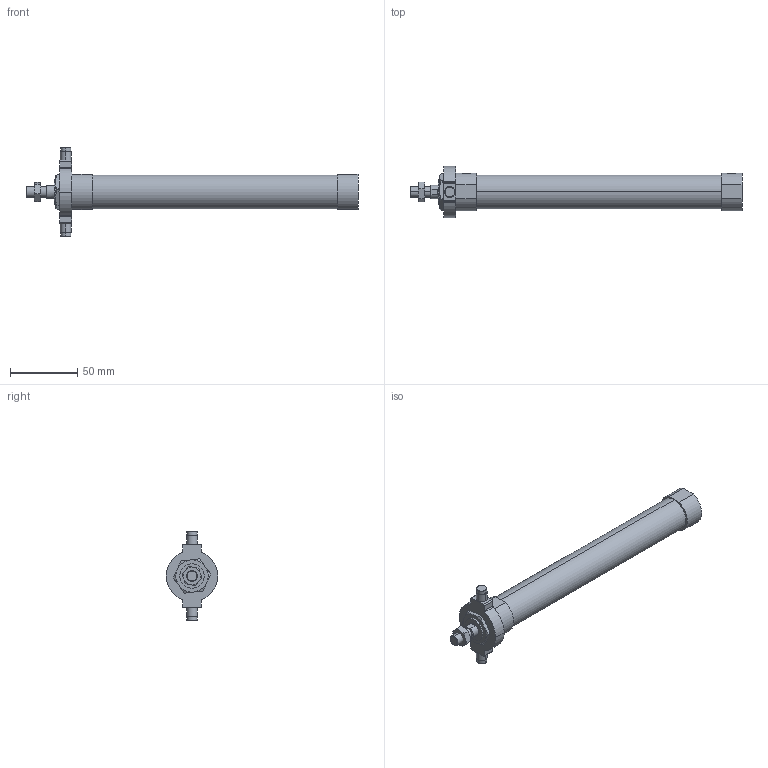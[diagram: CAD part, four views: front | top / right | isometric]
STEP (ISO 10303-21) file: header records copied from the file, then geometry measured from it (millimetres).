
FILE_DESCRIPTION (( 'STEP AP203' ), '1' );
FILE_NAME ('JGND2-20-150-T.STEP', '2016-08-04T02:34:06', ( '' ), ( '' ), 'SwSTEP 2.0', 'SolidWorks 2014', '' );
FILE_SCHEMA (( 'CONFIG_CONTROL_DESIGN' ));
Length unit declared in the file: millimetre
Products named in the file (5): J#2-20-T; J#2-20-150(P); JGND2-20-150-T
Assembly tree (4 placements, depth 2):
  JGND2-20-150-T
    J#2-20-150(P)
    (unnamed)
    (unnamed)
    J#2-20-T
Bounding box: 246 x 38 x 66 mm (x, y, z)
Volume: 121617.7 mm3; surface area: 26054.8 mm2
Topology: 4 solids, 4 shells, 123 faces, 275 edges, 170 vertices
Faces by surface type: plane 44, cylinder 43, torus 24, cone 12
Entity records: 4286 total; most frequent: CARTESIAN_POINT 1031, DIRECTION 597, ORIENTED_EDGE 550, EDGE_CURVE 275, AXIS2_PLACEMENT_3D 248, VERTEX_POINT 170, EDGE_LOOP 139, ADVANCED_FACE 123
